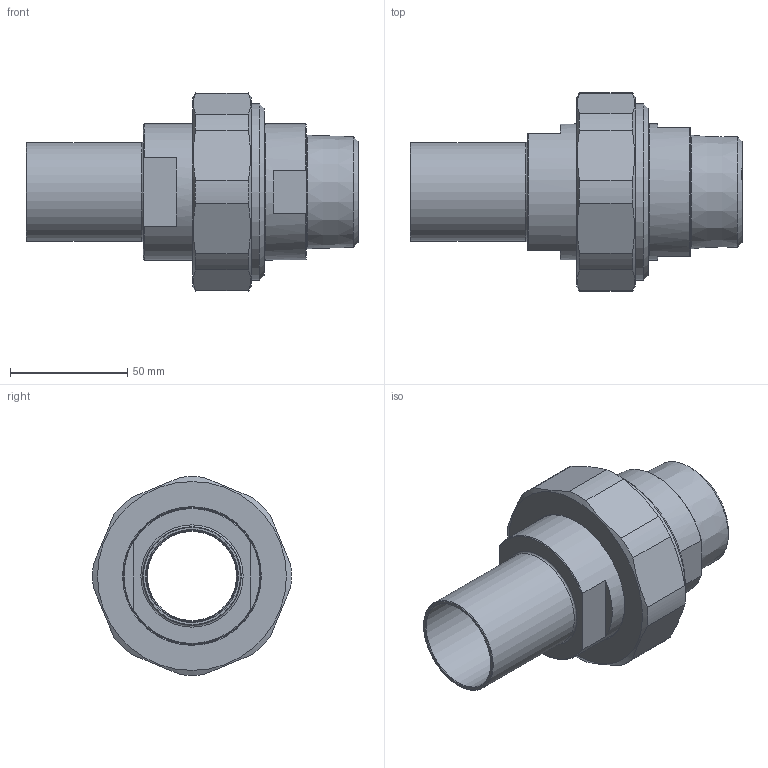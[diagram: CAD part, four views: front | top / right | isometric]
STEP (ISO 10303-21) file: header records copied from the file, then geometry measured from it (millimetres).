
FILE_DESCRIPTION(/* description */ (''),/* implementation_level */ '2;1');
FILE_NAME(/* name */ 'C:\Users\cad\Desktop\Zeichnungen neu von Ralph\Ganze Kupplungen\3D_Kupplung-R666-PE-UG\3D_R666-PE-UG-42-DN65-DN40_171130970.stp',/* time_stamp */ '2021-07-16T13:13:13+02:00',/* author */ ('cad'),/* organization */ (''),/* preprocessor_version */ 'ST-DEVELOPER v18.1',/* originating_system */ 'Autodesk Inventor 2022',/* authorisation */ '');
FILE_SCHEMA (('AUTOMOTIVE_DESIGN { 1 0 10303 214 3 1 1 }'));
Length unit declared in the file: millimetre
Products named in the file (4): 3D_R666-PE-UG-42-DN65-DN40_171130970; 3D_R666-M-DN65_17113970; 3D_R666-UG-DN40-DN65_17113660; 3D_R666-PE-42-DN65_17113485
Assembly tree (3 placements, depth 2):
  3D_R666-PE-UG-42-DN65-DN40_171130970
    3D_R666-M-DN65_17113970
    3D_R666-UG-DN40-DN65_17113660
    3D_R666-PE-42-DN65_17113485
Bounding box: 141.5 x 84.67 x 84.64 mm (x, y, z)
Volume: 196609.8 mm3; surface area: 67462.6 mm2
Topology: 3 solids, 3 shells, 69 faces, 171 edges, 113 vertices
Faces by surface type: plane 27, cone 20, cylinder 17, torus 5
Full cylindrical faces by diameter (mm): 38 x1, 39 x1, 42 x1, 58 x2, 58.5 x1, 70 x1, 72.226 x1, 75.1 x1
Entity records: 2222 total; most frequent: CARTESIAN_POINT 408, DIRECTION 389, ORIENTED_EDGE 342, EDGE_CURVE 171, AXIS2_PLACEMENT_3D 166, VERTEX_POINT 113, CIRCLE 90, EDGE_LOOP 80
